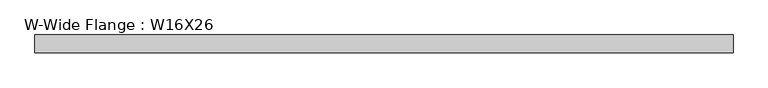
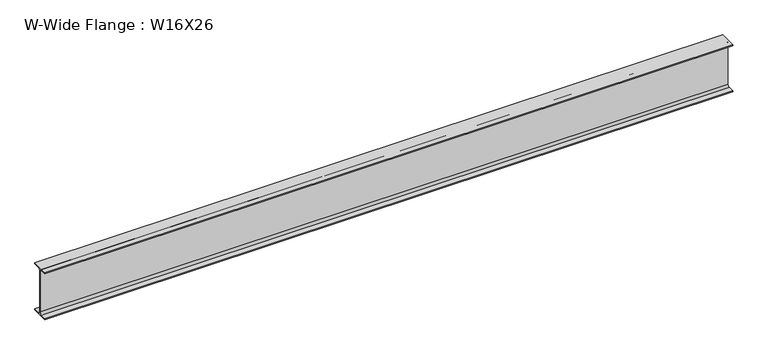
"""IFC4 building model written with IfcOpenShell, lengths in millimetres: beam geometry, W-Wide Flange : W16X26."""

from ifc_helpers import new_model, si_unit, point, frame, frame_2d, origin, place, context, project, spatial, polyline, circle_curve, trimmed, segment, composite_curve, outline, extrude, source, transform, mapped, element, save


def w_wide_flange_w16x26_9646d25a(model_context):
    return source(origin(), model_context, "Body", "SweptSolid", [
        extrude(outline(composite_curve([segment(polyline([(69.85, -190.5496094), (69.85, -199.2808594), (-69.85, -199.2808594), (-69.85, -190.5496094), (-21.43125, -190.5496094)]), True, "CONTINUOUS"), segment(trimmed(circle_curve(frame_2d((-21.43125, -172.2933594)), 18.25625), [point((-21.43125, -190.5496094))], [point((-3.175, -172.2933594))], True, "CARTESIAN"), True, "CONTINUOUS"), segment(polyline([(-3.175, -172.2933594), (-3.175, 172.2933594)]), True, "CONTINUOUS"), segment(trimmed(circle_curve(frame_2d((-21.43125, 172.2933594)), 18.25625), [point((-3.175, 172.2933594))], [point((-21.43125, 190.5496094))], True, "CARTESIAN"), True, "CONTINUOUS"), segment(polyline([(-21.43125, 190.5496094), (-69.85, 190.5496094), (-69.85, 199.2808594), (69.85, 199.2808594), (69.85, 190.5496094), (21.43125, 190.5496094)]), True, "CONTINUOUS"), segment(trimmed(circle_curve(frame_2d((21.43125, 172.2933594)), 18.25625), [point((21.43125, 190.5496094))], [point((3.175, 172.2933594))], True, "CARTESIAN"), True, "CONTINUOUS"), segment(polyline([(3.175, 172.2933594), (3.175, -172.2933594)]), True, "CONTINUOUS"), segment(trimmed(circle_curve(frame_2d((21.43125, -172.2933594)), 18.25625), [point((3.175, -172.2933594))], [point((21.43125, -190.5496094))], True, "CARTESIAN"), True, "CONTINUOUS"), segment(polyline([(21.43125, -190.5496094), (69.85, -190.5496094)]), True, "CONTINUOUS")], self_intersect=False)), frame((-2746.1104167, 0.0, 0.0), z_axis=(1.0, 0.0, 0.0), x_axis=(0.0, 1.0, 0.0)), (0.0, 0.0, 1.0), 5511.8),
    ])


if __name__ == "__main__":
    model = new_model("IFC4")
    model_context = context("Model", 3, world=origin())
    ifc_project = project(units=[si_unit("LENGTHUNIT", "METRE", prefix="MILLI")], contexts=[model_context])
    site = spatial("IfcSite", under=ifc_project)
    building = spatial("IfcBuilding", under=site)
    placement = place(None, origin())
    w_wide_flange_w16x26_shape = w_wide_flange_w16x26_9646d25a(model_context)
    element("IfcBeam", 1, ObjectType="W-Wide Flange : W16X26", at=placement, inside=building, context=model_context, shape_type="MappedRepresentation", body=[
        mapped(w_wide_flange_w16x26_shape, transform((0.0, 0.0, 0.0), x_axis=(1.0, 0.0, 0.0), y_axis=(0.0, 1.0, 0.0), z_axis=(0.0, 0.0, 1.0))),
    ])
    save(model, "model.ifc")
